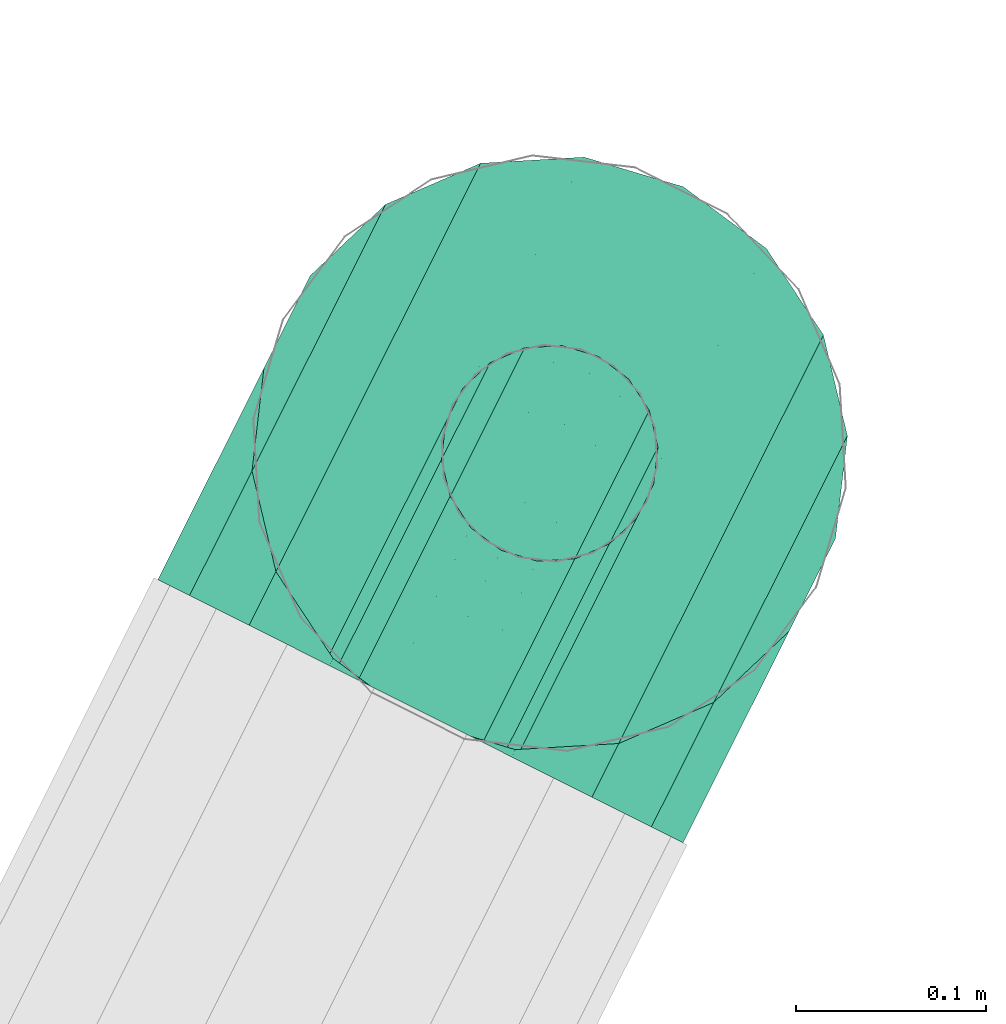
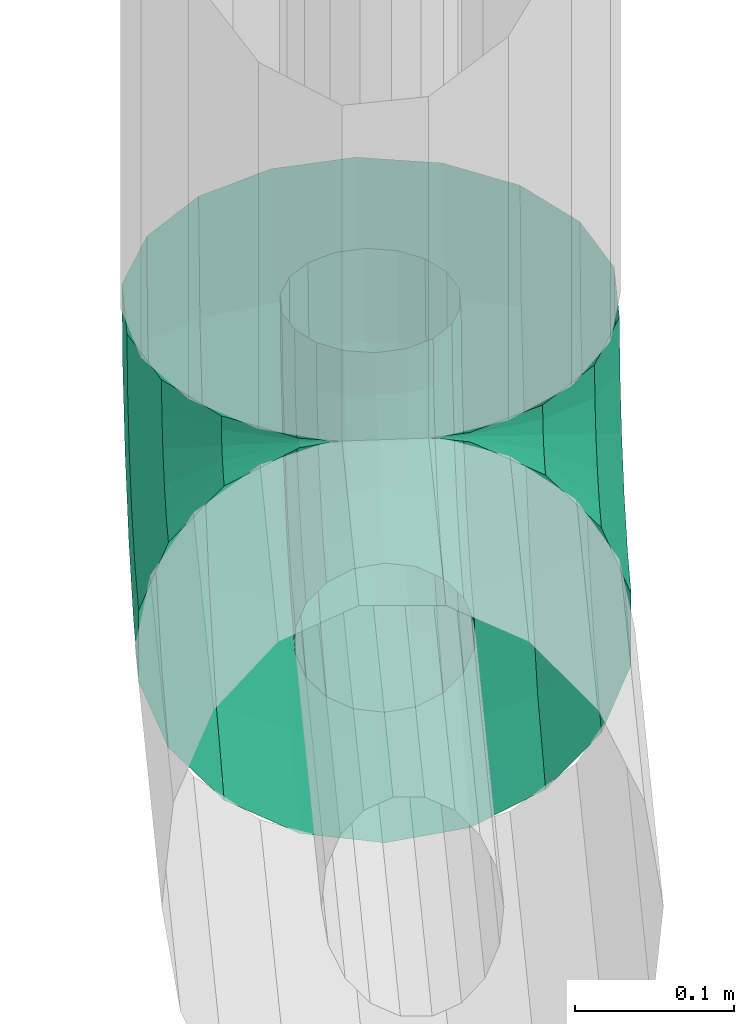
# One storey, part 4 of 11: 1 flow segment.
"""IFC2X3 building model written with IfcOpenShell, lengths in metres."""

from ifc_helpers import new_model, si_unit, derived_unit, direction, frame, origin, place, context, subcontext, project, spatial, face_set, surface_model, source, transform, mapped, material, type_object, type_shapes, element, save


model = new_model("IFC2X3")

# Units and contexts
model_context = context("Model", 3, precision=5.2338327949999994e-05, world=origin(), true_north=direction((0.0, 1.0)))
body_context = subcontext(model_context, "Body", "Model", "MODEL_VIEW")
ifc_project = project(units=[si_unit("LENGTHUNIT", "METRE"), si_unit("AREAUNIT", "SQUARE_METRE"), si_unit("VOLUMEUNIT", "CUBIC_METRE"), si_unit("MASSUNIT", "GRAM", prefix="KILO"), si_unit("PLANEANGLEUNIT", "RADIAN"), derived_unit("THERMALTRANSMITTANCEUNIT", [(si_unit("MASSUNIT", "GRAM", prefix="KILO"), 1), (si_unit("THERMODYNAMICTEMPERATUREUNIT", "KELVIN"), -1), (si_unit("TIMEUNIT", "SECOND"), -3)])], contexts=[model_context])

# Site, building, storey
site_placement = place(None, frame((0.0, 0.0, 0.0), z_axis=(0.0, 0.0, 1.0), x_axis=(0.8939966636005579, -0.4480736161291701, 0.0)))
site = spatial("IfcSite", under=ifc_project, at=site_placement, Name="Default", CompositionType="ELEMENT")
building_placement = place(site_placement, origin())
building = spatial("IfcBuilding", under=site, at=building_placement, CompositionType="ELEMENT")
storey_placement = place(building_placement, frame((0.0, 0.0, -2.7499999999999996)))
storey = spatial("IfcBuildingStorey", under=building, at=storey_placement, Name="1. Untergeschoss", CompositionType="ELEMENT", Elevation=-2.7499999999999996)

# Flow segment
ifc_material = material(Name="IfcSurfaceStyle #1741")
distribution_element_type = type_object("IfcDistributionElementType", Name="Rohrbogen 613608:Rohrbogen 613608", material=ifc_material)
shared_shape = source(origin(), body_context, "Body", "SurfaceModel", [
    surface_model("IfcFaceBasedSurfaceModel", [(25.624301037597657, 0.659213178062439, -0.444630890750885), (25.624301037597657, 0.6694497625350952, -0.37999998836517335), (25.643846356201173, 0.6559353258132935, -0.4435658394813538), (25.643846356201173, 0.6660031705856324, -0.37999998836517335), (25.624301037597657, 0.6295056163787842, -0.5029352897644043), (25.643846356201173, 0.6267173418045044, -0.5009094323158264), (25.624301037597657, 0.5832350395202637, -0.5492059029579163), (25.643846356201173, 0.5812091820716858, -0.5464175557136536), (25.624301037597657, 0.5249306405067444, -0.5789134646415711), (25.643846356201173, 0.5238655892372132, -0.5756355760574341), (25.624301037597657, 0.46029973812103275, -0.5891500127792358), (25.643846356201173, 0.46029973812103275, -0.585703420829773), (25.661036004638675, 0.6464970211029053, -0.4404991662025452), (25.661036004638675, 0.6560792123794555, -0.37999998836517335), (25.661036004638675, 0.6186886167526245, -0.4950762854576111), (25.661036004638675, 0.575375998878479, -0.5383889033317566), (25.661036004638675, 0.5207989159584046, -0.5661973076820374), (25.661036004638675, 0.46029973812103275, -0.5757794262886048), (25.673793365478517, 0.6320367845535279, -0.43580076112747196), (25.673793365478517, 0.6408747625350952, -0.37999998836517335), (25.673793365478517, 0.6063879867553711, -0.4861393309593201), (25.673793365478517, 0.5664390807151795, -0.5260882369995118), (25.673793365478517, 0.5161004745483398, -0.5517370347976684), (25.673793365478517, 0.46029973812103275, -0.5605750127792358), (25.68058132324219, 0.622223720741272, -0.37999998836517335), (25.68058132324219, 0.614298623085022, -0.430037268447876), (25.68058132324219, 0.5912990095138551, -0.47517651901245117), (25.68058132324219, 0.5554762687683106, -0.5109992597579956), (25.68058132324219, 0.5103370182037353, -0.5339988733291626), (25.68058132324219, 0.46029973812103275, -0.5419240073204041), (25.68058132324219, 0.5954220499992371, -0.42390388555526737), (25.68058132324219, 0.6023757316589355, -0.37999998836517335), (25.68058132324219, 0.5752416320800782, -0.4635101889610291), (25.68058132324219, 0.5438099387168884, -0.4949419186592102), (25.68058132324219, 0.5042036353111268, -0.5151223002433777), (25.68058132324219, 0.46029973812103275, -0.5220760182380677), (25.673793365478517, 0.5776838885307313, -0.41814042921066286), (25.673793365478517, 0.5837247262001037, -0.37999998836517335), (25.673793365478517, 0.560152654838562, -0.4525473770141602), (25.673793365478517, 0.5328471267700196, -0.4798529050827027), (25.673793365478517, 0.49844017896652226, -0.49738413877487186), (25.673793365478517, 0.46029973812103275, -0.5034250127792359), (25.661036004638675, 0.5632236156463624, -0.41344198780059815), (25.661036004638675, 0.5685203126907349, -0.37999998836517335), (25.661036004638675, 0.5478520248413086, -0.44361045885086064), (25.661036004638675, 0.5239101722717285, -0.4675522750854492), (25.661036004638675, 0.49374173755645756, -0.48292386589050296), (25.661036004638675, 0.46029973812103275, -0.48822056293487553), (25.643846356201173, 0.5585963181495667, -0.37999998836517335), (25.643846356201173, 0.5537853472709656, -0.41037531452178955), (25.643846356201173, 0.5398233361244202, -0.43777727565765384), (25.643846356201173, 0.5180770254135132, -0.45952358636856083), (25.643846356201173, 0.49067506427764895, -0.4734855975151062), (25.643846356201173, 0.46029973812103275, -0.4782965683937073), (25.624301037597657, 0.5551497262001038, -0.37999998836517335), (25.624301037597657, 0.5505074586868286, -0.40931026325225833), (25.624301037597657, 0.5370349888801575, -0.4357514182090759), (25.624301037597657, 0.5160511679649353, -0.45673527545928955), (25.624301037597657, 0.4896100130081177, -0.47020770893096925), (25.624301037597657, 0.46029973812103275, -0.4748500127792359), (25.604753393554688, 0.5537853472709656, -0.41037531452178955), (25.604753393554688, 0.5585963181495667, -0.37999998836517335), (25.604753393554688, 0.5398233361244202, -0.43777727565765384), (25.604753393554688, 0.5180770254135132, -0.45952358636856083), (25.604753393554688, 0.49067506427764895, -0.4734855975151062), (25.604753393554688, 0.46029973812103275, -0.4782965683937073), (25.58756374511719, 0.5632236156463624, -0.41344198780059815), (25.58756374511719, 0.5685203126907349, -0.37999998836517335), (25.58756374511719, 0.5478520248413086, -0.44361045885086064), (25.58756374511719, 0.5239101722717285, -0.4675522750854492), (25.58756374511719, 0.49374173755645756, -0.48292386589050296), (25.58756374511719, 0.46029973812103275, -0.48822056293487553), (25.574806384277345, 0.5837247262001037, -0.37999998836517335), (25.574806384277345, 0.5776838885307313, -0.41814042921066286), (25.574806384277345, 0.560152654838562, -0.4525473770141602), (25.574806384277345, 0.5328471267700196, -0.4798529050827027), (25.574806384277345, 0.49844017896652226, -0.49738413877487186), (25.574806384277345, 0.46029973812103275, -0.5034250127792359), (25.568018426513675, 0.6023757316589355, -0.37999998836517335), (25.568018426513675, 0.5954220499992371, -0.42390388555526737), (25.568018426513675, 0.5752416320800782, -0.4635101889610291), (25.568018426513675, 0.5438099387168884, -0.4949419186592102), (25.568018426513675, 0.5042036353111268, -0.5151223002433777), (25.568018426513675, 0.46029973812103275, -0.5220760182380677), (25.568018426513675, 0.622223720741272, -0.37999998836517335), (25.568018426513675, 0.614298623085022, -0.430037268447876), (25.568018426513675, 0.5912990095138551, -0.47517651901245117), (25.568018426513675, 0.5554762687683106, -0.5109992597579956), (25.568018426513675, 0.5103370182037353, -0.5339988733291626), (25.568018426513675, 0.46029973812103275, -0.5419240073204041), (25.574806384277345, 0.6320367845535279, -0.43580076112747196), (25.574806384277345, 0.6408747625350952, -0.37999998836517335), (25.574806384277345, 0.6063879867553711, -0.4861393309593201), (25.574806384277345, 0.5664390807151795, -0.5260882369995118), (25.574806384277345, 0.5161004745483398, -0.5517370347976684), (25.574806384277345, 0.46029973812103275, -0.5605750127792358), (25.58756374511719, 0.6560792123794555, -0.37999998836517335), (25.58756374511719, 0.6464970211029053, -0.4404991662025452), (25.58756374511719, 0.6186886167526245, -0.4950762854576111), (25.58756374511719, 0.575375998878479, -0.5383889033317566), (25.58756374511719, 0.5207989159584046, -0.5661973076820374), (25.58756374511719, 0.46029973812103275, -0.5757794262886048), (25.604753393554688, 0.6559353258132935, -0.4435658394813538), (25.604753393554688, 0.6660031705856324, -0.37999998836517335), (25.604753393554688, 0.6267173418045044, -0.5009094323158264), (25.604753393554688, 0.5812091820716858, -0.5464175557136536), (25.624301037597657, 0.7543188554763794, -0.47553260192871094), (25.624301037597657, 0.7694497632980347, -0.37999998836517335), (25.678048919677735, 0.7599724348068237, -0.37999998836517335), (25.678048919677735, 0.745305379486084, -0.4726039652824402), (25.624301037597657, 0.7104073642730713, -0.5617138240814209), (25.678048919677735, 0.7027400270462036, -0.5561431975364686), (25.624301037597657, 0.6420135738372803, -0.630107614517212), (25.678048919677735, 0.6364429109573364, -0.6224402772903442), (25.624301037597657, 0.5558323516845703, -0.67401910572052), (25.678048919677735, 0.5529036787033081, -0.6650057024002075), (25.624301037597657, 0.46029973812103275, -0.6891500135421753), (25.678048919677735, 0.46029973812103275, -0.6796726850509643), (25.7253134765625, 0.7193522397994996, -0.4641712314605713), (25.7253134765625, 0.7326836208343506, -0.37999998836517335), (25.7253134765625, 0.680662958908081, -0.5401032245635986), (25.7253134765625, 0.620402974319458, -0.6003632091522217), (25.7253134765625, 0.5444709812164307, -0.6390524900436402), (25.7253134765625, 0.46029973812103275, -0.6523838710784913), (25.760395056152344, 0.6795896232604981, -0.4512515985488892), (25.760395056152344, 0.690874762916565, -0.37999998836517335), (25.760395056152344, 0.6468388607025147, -0.5155285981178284), (25.760395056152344, 0.5958283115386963, -0.5665391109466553), (25.760395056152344, 0.5315513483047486, -0.5992898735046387), (25.760395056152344, 0.46029973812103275, -0.6105750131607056), (25.779063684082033, 0.6308135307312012, -0.43540329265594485), (25.779063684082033, 0.6395885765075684, -0.37999998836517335), (25.779063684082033, 0.6053474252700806, -0.4853833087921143), (25.779063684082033, 0.5656830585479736, -0.5250477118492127), (25.779063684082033, 0.5157030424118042, -0.5505137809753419), (25.779063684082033, 0.46029973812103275, -0.559288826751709), (25.779063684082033, 0.5789071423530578, -0.4185378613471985), (25.779063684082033, 0.5850109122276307, -0.37999998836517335), (25.779063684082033, 0.5611932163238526, -0.453303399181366), (25.779063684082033, 0.5336031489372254, -0.4808934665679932), (25.779063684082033, 0.4988376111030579, -0.4986073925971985), (25.779063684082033, 0.46029973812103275, -0.5047111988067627), (25.760395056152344, 0.5337247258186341, -0.37999998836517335), (25.760395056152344, 0.530131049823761, -0.40268955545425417), (25.760395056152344, 0.51970181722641, -0.42315814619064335), (25.760395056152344, 0.5034578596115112, -0.43940206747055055), (25.760395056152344, 0.4829893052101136, -0.4498313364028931), (25.760395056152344, 0.46029973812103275, -0.4534250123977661), (25.7253134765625, 0.4919158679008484, -0.37999998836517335), (25.7253134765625, 0.490368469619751, -0.38976992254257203), (25.7253134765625, 0.48587771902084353, -0.3985834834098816), (25.7253134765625, 0.478883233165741, -0.40557796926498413), (25.7253134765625, 0.47006967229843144, -0.4100687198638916), (25.7253134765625, 0.46029973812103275, -0.41161611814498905), (25.678048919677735, 0.4646270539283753, -0.37999998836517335), (25.678048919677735, 0.4644152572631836, -0.3813372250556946), (25.678048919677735, 0.46380061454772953, -0.38254351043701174), (25.678048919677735, 0.46284326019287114, -0.3835008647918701), (25.678048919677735, 0.4616369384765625, -0.38411550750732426), (25.678048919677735, 0.46029973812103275, -0.38432730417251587), (25.653506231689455, 0.46029955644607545, -0.3799999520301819), (25.6541736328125, 0.46029955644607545, -0.3807431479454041), (25.595093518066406, 0.46029955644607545, -0.3799999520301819), (25.59442611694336, 0.46029955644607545, -0.3807431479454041), (25.570550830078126, 0.4644152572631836, -0.3813372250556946), (25.570550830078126, 0.4646270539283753, -0.37999998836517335), (25.570550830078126, 0.46380061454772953, -0.38254351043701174), (25.570550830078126, 0.46284326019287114, -0.3835008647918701), (25.570550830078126, 0.4616369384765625, -0.38411550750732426), (25.570550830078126, 0.46029973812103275, -0.38432730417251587), (25.52328627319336, 0.4919158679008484, -0.37999998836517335), (25.52328627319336, 0.490368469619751, -0.38976992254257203), (25.52328627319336, 0.48587771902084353, -0.3985834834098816), (25.52328627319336, 0.478883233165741, -0.40557796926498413), (25.52328627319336, 0.47006967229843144, -0.4100687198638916), (25.52328627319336, 0.46029973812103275, -0.41161611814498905), (25.488204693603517, 0.5337247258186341, -0.37999998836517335), (25.488204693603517, 0.530131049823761, -0.40268955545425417), (25.488204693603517, 0.51970181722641, -0.42315814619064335), (25.488204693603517, 0.5034578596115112, -0.43940206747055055), (25.488204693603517, 0.4829893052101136, -0.4498313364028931), (25.488204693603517, 0.46029973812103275, -0.4534250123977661), (25.469538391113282, 0.5850109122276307, -0.37999998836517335), (25.469538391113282, 0.5789071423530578, -0.4185378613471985), (25.469538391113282, 0.5611932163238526, -0.453303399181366), (25.469538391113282, 0.5336031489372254, -0.4808934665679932), (25.469538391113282, 0.4988376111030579, -0.4986073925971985), (25.469538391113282, 0.46029973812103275, -0.5047111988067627), (25.469538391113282, 0.6395885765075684, -0.37999998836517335), (25.469538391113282, 0.6308135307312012, -0.43540329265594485), (25.469538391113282, 0.6053474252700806, -0.4853833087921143), (25.469538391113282, 0.5656830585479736, -0.5250477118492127), (25.469538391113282, 0.5157030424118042, -0.5505137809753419), (25.469538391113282, 0.46029973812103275, -0.559288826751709), (25.488204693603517, 0.6795896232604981, -0.4512515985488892), (25.488204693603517, 0.690874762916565, -0.37999998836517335), (25.488204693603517, 0.6468388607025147, -0.5155285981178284), (25.488204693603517, 0.5958283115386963, -0.5665391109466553), (25.488204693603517, 0.5315513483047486, -0.5992898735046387), (25.488204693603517, 0.46029973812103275, -0.6105750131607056), (25.52328627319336, 0.7326836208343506, -0.37999998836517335), (25.52328627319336, 0.7193522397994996, -0.4641712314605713), (25.52328627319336, 0.680662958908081, -0.5401032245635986), (25.52328627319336, 0.620402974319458, -0.6003632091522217), (25.52328627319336, 0.5444709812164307, -0.6390524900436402), (25.52328627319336, 0.46029973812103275, -0.6523838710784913), (25.570550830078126, 0.7599724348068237, -0.37999998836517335), (25.570550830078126, 0.745305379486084, -0.4726039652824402), (25.570550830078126, 0.7027400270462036, -0.5561431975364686), (25.570550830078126, 0.6364429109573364, -0.6224402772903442), (25.570550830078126, 0.5529036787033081, -0.6650057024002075), (25.570550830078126, 0.46029973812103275, -0.6796726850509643), (25.604753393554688, 0.5238655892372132, -0.5756355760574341), (25.604753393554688, 0.46029973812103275, -0.585703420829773)], [face_set([[[0, 1, 2]], [[3, 2, 1]], [[4, 0, 5]], [[2, 5, 0]], [[6, 4, 7]], [[5, 7, 4]], [[8, 6, 7]], [[7, 9, 8]], [[10, 8, 9]], [[9, 11, 10]], [[2, 3, 12]], [[13, 12, 3]], [[5, 2, 14]], [[12, 14, 2]], [[7, 5, 15]], [[14, 15, 5]], [[9, 7, 16]], [[15, 16, 7]], [[11, 9, 17]], [[16, 17, 9]], [[12, 13, 18]], [[19, 18, 13]], [[14, 12, 20]], [[18, 20, 12]], [[15, 14, 21]], [[20, 21, 14]], [[16, 15, 21]], [[21, 22, 16]], [[17, 16, 22]], [[22, 23, 17]], [[18, 19, 24]], [[24, 25, 18]], [[20, 18, 25]], [[25, 26, 20]], [[21, 20, 26]], [[26, 27, 21]], [[22, 21, 27]], [[27, 28, 22]], [[23, 22, 28]], [[28, 29, 23]], [[25, 24, 30]], [[31, 30, 24]], [[26, 25, 32]], [[30, 32, 25]], [[27, 26, 32]], [[32, 33, 27]], [[28, 27, 33]], [[33, 34, 28]], [[29, 28, 35]], [[34, 35, 28]], [[30, 31, 36]], [[37, 36, 31]], [[32, 30, 38]], [[36, 38, 30]], [[33, 32, 38]], [[38, 39, 33]], [[34, 33, 40]], [[39, 40, 33]], [[35, 34, 41]], [[40, 41, 34]], [[36, 37, 42]], [[43, 42, 37]], [[38, 36, 44]], [[42, 44, 36]], [[39, 38, 45]], [[44, 45, 38]], [[40, 39, 46]], [[45, 46, 39]], [[41, 40, 47]], [[46, 47, 40]], [[42, 43, 48]], [[48, 49, 42]], [[44, 42, 49]], [[49, 50, 44]], [[45, 44, 50]], [[50, 51, 45]], [[46, 45, 51]], [[51, 52, 46]], [[47, 46, 52]], [[52, 53, 47]], [[49, 48, 54]], [[54, 55, 49]], [[50, 49, 56]], [[55, 56, 49]], [[51, 50, 56]], [[56, 57, 51]], [[52, 51, 57]], [[57, 58, 52]], [[53, 52, 58]], [[58, 59, 53]], [[55, 54, 60]], [[61, 60, 54]], [[56, 55, 62]], [[60, 62, 55]], [[57, 56, 63]], [[62, 63, 56]], [[58, 57, 64]], [[63, 64, 57]], [[59, 58, 65]], [[64, 65, 58]], [[60, 61, 66]], [[67, 66, 61]], [[62, 60, 68]], [[66, 68, 60]], [[63, 62, 69]], [[68, 69, 62]], [[64, 63, 69]], [[69, 70, 64]], [[65, 64, 71]], [[70, 71, 64]], [[66, 67, 72]], [[72, 73, 66]], [[68, 66, 73]], [[73, 74, 68]], [[69, 68, 75]], [[74, 75, 68]], [[70, 69, 76]], [[75, 76, 69]], [[71, 70, 76]], [[76, 77, 71]], [[73, 72, 78]], [[78, 79, 73]], [[74, 73, 80]], [[79, 80, 73]], [[75, 74, 81]], [[80, 81, 74]], [[76, 75, 81]], [[81, 82, 76]], [[77, 76, 82]], [[82, 83, 77]], [[79, 78, 84]], [[84, 85, 79]], [[80, 79, 85]], [[85, 86, 80]], [[81, 80, 87]], [[86, 87, 80]], [[82, 81, 88]], [[87, 88, 81]], [[83, 82, 88]], [[88, 89, 83]], [[85, 84, 90]], [[91, 90, 84]], [[86, 85, 92]], [[90, 92, 85]], [[87, 86, 93]], [[92, 93, 86]], [[88, 87, 94]], [[93, 94, 87]], [[89, 88, 95]], [[94, 95, 88]], [[90, 91, 96]], [[96, 97, 90]], [[92, 90, 97]], [[97, 98, 92]], [[93, 92, 98]], [[98, 99, 93]], [[94, 93, 100]], [[99, 100, 93]], [[95, 94, 101]], [[100, 101, 94]], [[97, 96, 102]], [[103, 102, 96]], [[98, 97, 104]], [[102, 104, 97]], [[99, 98, 105]], [[104, 105, 98]], [[102, 103, 1]], [[1, 0, 102]], [[104, 102, 4]], [[0, 4, 102]], [[105, 104, 4]], [[4, 6, 105]], [[106, 107, 108]], [[108, 109, 106]], [[110, 106, 111]], [[109, 111, 106]], [[112, 110, 111]], [[111, 113, 112]], [[114, 112, 113]], [[113, 115, 114]], [[116, 114, 115]], [[115, 117, 116]], [[109, 108, 118]], [[119, 118, 108]], [[111, 109, 120]], [[118, 120, 109]], [[113, 111, 121]], [[120, 121, 111]], [[115, 113, 121]], [[121, 122, 115]], [[117, 115, 122]], [[122, 123, 117]], [[118, 119, 124]], [[125, 124, 119]], [[120, 118, 124]], [[124, 126, 120]], [[121, 120, 126]], [[126, 127, 121]], [[122, 121, 127]], [[127, 128, 122]], [[123, 122, 128]], [[128, 129, 123]], [[124, 125, 130]], [[131, 130, 125]], [[126, 124, 132]], [[130, 132, 124]], [[127, 126, 132]], [[132, 133, 127]], [[128, 127, 134]], [[133, 134, 127]], [[129, 128, 135]], [[134, 135, 128]], [[130, 131, 136]], [[137, 136, 131]], [[132, 130, 136]], [[136, 138, 132]], [[133, 132, 138]], [[138, 139, 133]], [[134, 133, 139]], [[139, 140, 134]], [[135, 134, 140]], [[140, 141, 135]], [[136, 137, 142]], [[142, 143, 136]], [[138, 136, 143]], [[143, 144, 138]], [[139, 138, 144]], [[144, 145, 139]], [[140, 139, 145]], [[145, 146, 140]], [[141, 140, 146]], [[146, 147, 141]], [[143, 142, 148]], [[148, 149, 143]], [[144, 143, 150]], [[149, 150, 143]], [[145, 144, 151]], [[150, 151, 144]], [[146, 145, 151]], [[151, 152, 146]], [[147, 146, 153]], [[152, 153, 146]], [[149, 148, 154]], [[154, 155, 149]], [[150, 149, 156]], [[155, 156, 149]], [[151, 150, 156]], [[156, 157, 151]], [[152, 151, 157]], [[157, 158, 152]], [[153, 152, 158]], [[158, 159, 153]], [[160, 155, 161]], [[160, 161, 154]], [[155, 154, 161]], [[156, 155, 160]], [[157, 156, 160]], [[158, 157, 160]], [[159, 158, 160]], [[162, 163, 164]], [[165, 164, 163]], [[163, 162, 165]], [[164, 166, 162]], [[162, 166, 167]], [[167, 168, 162]], [[168, 169, 162]], [[164, 165, 170]], [[170, 171, 164]], [[166, 164, 171]], [[171, 172, 166]], [[167, 166, 173]], [[172, 173, 166]], [[168, 167, 174]], [[173, 174, 167]], [[169, 168, 175]], [[174, 175, 168]], [[171, 170, 176]], [[176, 177, 171]], [[172, 171, 177]], [[177, 178, 172]], [[173, 172, 178]], [[178, 179, 173]], [[174, 173, 180]], [[179, 180, 173]], [[175, 174, 180]], [[180, 181, 175]], [[177, 176, 182]], [[182, 183, 177]], [[178, 177, 184]], [[183, 184, 177]], [[179, 178, 185]], [[184, 185, 178]], [[180, 179, 185]], [[185, 186, 180]], [[181, 180, 187]], [[186, 187, 180]], [[183, 182, 188]], [[188, 189, 183]], [[184, 183, 190]], [[189, 190, 183]], [[185, 184, 191]], [[190, 191, 184]], [[186, 185, 192]], [[191, 192, 185]], [[187, 186, 193]], [[192, 193, 186]], [[189, 188, 194]], [[195, 194, 188]], [[190, 189, 194]], [[194, 196, 190]], [[191, 190, 197]], [[196, 197, 190]], [[192, 191, 198]], [[197, 198, 191]], [[193, 192, 198]], [[198, 199, 193]], [[194, 195, 200]], [[200, 201, 194]], [[196, 194, 202]], [[201, 202, 194]], [[197, 196, 203]], [[202, 203, 196]], [[198, 197, 204]], [[203, 204, 197]], [[199, 198, 205]], [[204, 205, 198]], [[201, 200, 206]], [[206, 207, 201]], [[202, 201, 208]], [[207, 208, 201]], [[203, 202, 208]], [[208, 209, 203]], [[204, 203, 210]], [[209, 210, 203]], [[205, 204, 211]], [[210, 211, 204]], [[207, 206, 107]], [[107, 106, 207]], [[208, 207, 110]], [[106, 110, 207]], [[209, 208, 112]], [[110, 112, 208]], [[210, 209, 114]], [[112, 114, 209]], [[211, 210, 116]], [[114, 116, 210]], [[100, 99, 212]], [[105, 212, 99]], [[101, 100, 213]], [[212, 213, 100]], [[212, 105, 6]], [[6, 8, 212]], [[213, 212, 8]], [[8, 10, 213]]])]),
])
type_shapes(distribution_element_type, [shared_shape])
flow_segment_placement = place(storey_placement, frame((0.0, 0.0, 2.7499999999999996)))
element("IfcFlowSegment", 1, at=flow_segment_placement, inside=storey, type_object=distribution_element_type, material=ifc_material, Name="Rohrbogen", ObjectType="Rohrbogen", context=body_context, shape_type="MappedRepresentation", body=[
    mapped(shared_shape, transform((0.0, 0.0, 0.0), scale=1.0)),
])

save(model, "model.ifc")
